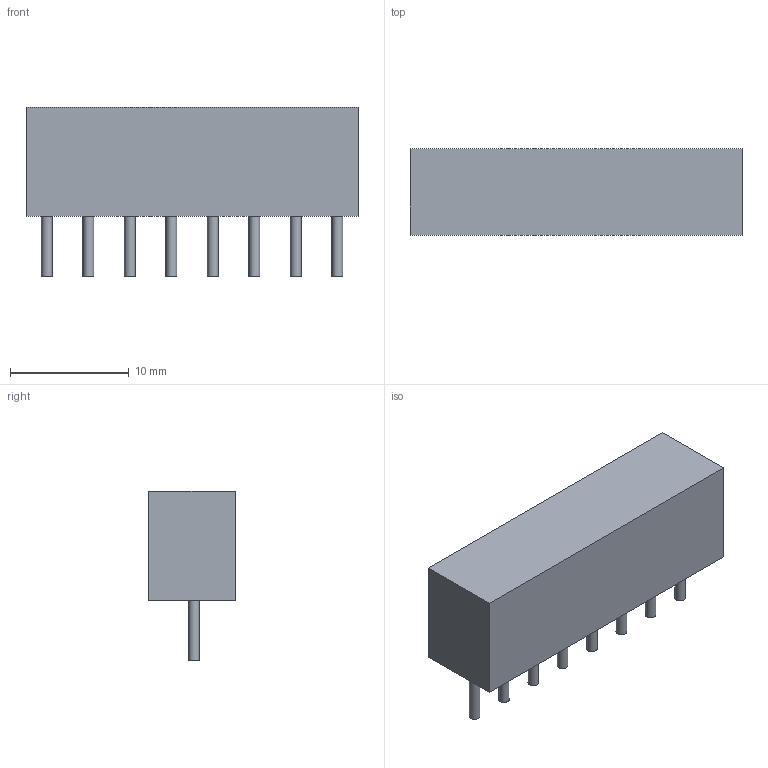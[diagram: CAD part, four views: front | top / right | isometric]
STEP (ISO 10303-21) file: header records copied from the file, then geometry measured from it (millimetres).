
FILE_DESCRIPTION(('FreeCAD Model'),'2;1');
FILE_NAME('/var/www/3D/0T/13292174.1.5.stp','2023-06-16T14:25:27',( 'Author'),(''),'Open CASCADE STEP processor 6.9','FreeCAD','Unknown' );
FILE_SCHEMA(('AUTOMOTIVE_DESIGN { 1 0 10303 214 1 1 1 1 }'));
Length unit declared in the file: millimetre
Products named in the file (3): ASSEMBLY; Body; Leads
Assembly tree (2 placements, depth 2):
  ASSEMBLY
    Body
    Leads
Bounding box: 28 x 7.3 x 14.3 mm (x, y, z)
Volume: 1906.4 mm3; surface area: 1183.9 mm2
Topology: 9 solids, 9 shells, 30 faces, 36 edges, 24 vertices
Faces by surface type: plane 22, cylinder 8
Full cylindrical faces by diameter (mm): 0.9 x8
Entity records: 1179 total; most frequent: DIRECTION 190, CARTESIAN_POINT 165, LINE 76, VECTOR 76, ORIENTED_EDGE 72, PCURVE 72, DEFINITIONAL_REPRESENTATION 72, AXIS2_PLACEMENT_3D 49
